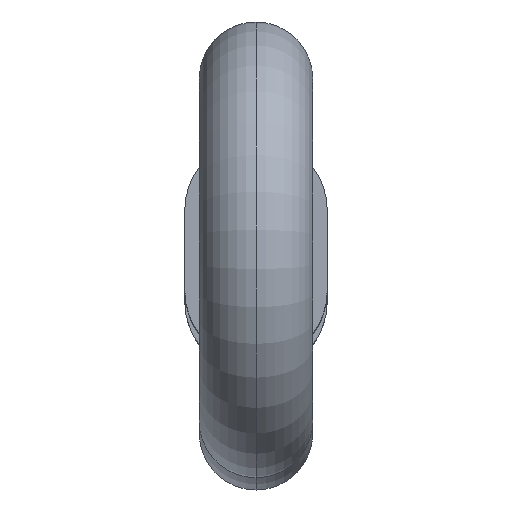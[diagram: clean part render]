
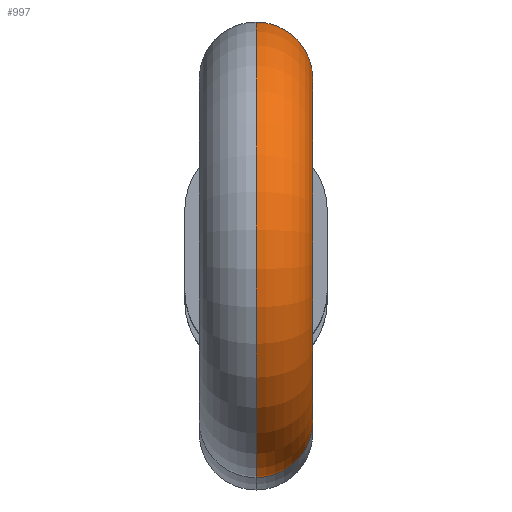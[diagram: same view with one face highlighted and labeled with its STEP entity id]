
A CAD part, top view. The second image highlights one B-rep face of the part: STEP entity #997.
In plain terms, the highlighted toroidal (fillet/blend) face has major radius 4.8 mm and minor radius 1.59 mm.
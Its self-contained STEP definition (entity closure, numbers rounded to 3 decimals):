
#6 = CIRCLE ( 'NONE', #126, 6.39 ) ;
#16 = EDGE_LOOP ( 'NONE', ( #63, #980, #358, #569 ) ) ;
#57 = CARTESIAN_POINT ( 'NONE',  ( 0., -1.133, 101.6 ) ) ;
#63 = ORIENTED_EDGE ( 'NONE', *, *, #1002, .T. ) ;
#103 = CARTESIAN_POINT ( 'NONE',  ( 0., -1.133, 101.6 ) ) ;
#126 = AXIS2_PLACEMENT_3D ( 'NONE', #57, #614, #533 ) ;
#176 = DIRECTION ( 'NONE',  ( 1., 0., 0. ) ) ;
#202 = DIRECTION ( 'NONE',  ( 0., 0.667, 0.745 ) ) ;
#213 = EDGE_CURVE ( 'NONE', #821, #640, #6, .T. ) ;
#275 = DIRECTION ( 'NONE',  ( 1., 0., 0. ) ) ;
#277 = DIRECTION ( 'NONE',  ( 1., 0., 0. ) ) ;
#285 = DIRECTION ( 'NONE',  ( 1., 0., 0. ) ) ;
#333 = CARTESIAN_POINT ( 'NONE',  ( 0., -4.711, 98.4 ) ) ;
#358 = ORIENTED_EDGE ( 'NONE', *, *, #693, .F. ) ;
#477 = AXIS2_PLACEMENT_3D ( 'NONE', #333, #722, #176 ) ;
#493 = CARTESIAN_POINT ( 'NONE',  ( 0., 1.259, 99.46 ) ) ;
#529 = AXIS2_PLACEMENT_3D ( 'NONE', #103, #285, #584 ) ;
#533 = DIRECTION ( 'NONE',  ( 0., 0., -1. ) ) ;
#537 = CARTESIAN_POINT ( 'NONE',  ( 0., 3.63, 97.34 ) ) ;
#569 = ORIENTED_EDGE ( 'NONE', *, *, #661, .F. ) ;
#584 = DIRECTION ( 'NONE',  ( 0., 0., -1. ) ) ;
#614 = DIRECTION ( 'NONE',  ( 1., 0., 0. ) ) ;
#640 = VERTEX_POINT ( 'NONE', #961 ) ;
#652 = CIRCLE ( 'NONE', #477, 1.59 ) ;
#661 = EDGE_CURVE ( 'NONE', #729, #781, #888, .T. ) ;
#666 = DIRECTION ( 'NONE',  ( 0., 0., -1. ) ) ;
#667 = CARTESIAN_POINT ( 'NONE',  ( 0., 2.445, 98.4 ) ) ;
#693 = EDGE_CURVE ( 'NONE', #781, #640, #652, .T. ) ;
#722 = DIRECTION ( 'NONE',  ( 0., 0.667, -0.745 ) ) ;
#726 = CARTESIAN_POINT ( 'NONE',  ( 0., -3.526, 99.46 ) ) ;
#729 = VERTEX_POINT ( 'NONE', #493 ) ;
#781 = VERTEX_POINT ( 'NONE', #726 ) ;
#821 = VERTEX_POINT ( 'NONE', #537 ) ;
#858 = TOROIDAL_SURFACE ( 'NONE', #529, 4.8, 1.59 ) ;
#871 = AXIS2_PLACEMENT_3D ( 'NONE', #966, #277, #666 ) ;
#888 = CIRCLE ( 'NONE', #871, 3.21 ) ;
#928 = AXIS2_PLACEMENT_3D ( 'NONE', #667, #202, #275 ) ;
#955 = CIRCLE ( 'NONE', #928, 1.59 ) ;
#961 = CARTESIAN_POINT ( 'NONE',  ( 0., -5.896, 97.34 ) ) ;
#966 = CARTESIAN_POINT ( 'NONE',  ( 0., -1.133, 101.6 ) ) ;
#979 = FACE_OUTER_BOUND ( 'NONE', #16, .T. ) ;
#980 = ORIENTED_EDGE ( 'NONE', *, *, #213, .T. ) ;
#997 = ADVANCED_FACE ( 'NONE', ( #979 ), #858, .T. ) ;
#1002 = EDGE_CURVE ( 'NONE', #729, #821, #955, .T. ) ;
